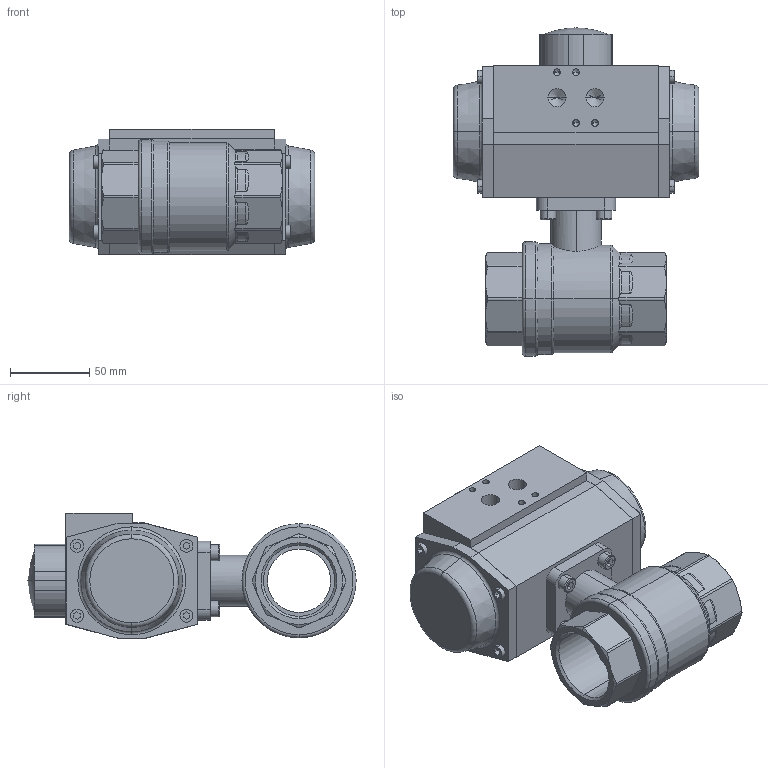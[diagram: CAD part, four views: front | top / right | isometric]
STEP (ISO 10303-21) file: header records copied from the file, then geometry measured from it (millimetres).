
FILE_DESCRIPTION (( 'STEP AP214' ), '1' );
FILE_NAME ('A25-DN40-G1 1_2+AP2.step', '2011-03-03T09:48:46', ( '' ), ( '' ), 'SwSTEP 2.0', 'SolidWorks 2011', '' );
FILE_SCHEMA (( 'AUTOMOTIVE_DESIGN' ));
Length unit declared in the file: millimetre
Products named in the file (4): DIN 912 M6 x 20 --- 20N_DIN 912 M6 x 20 --- 20N; AP2_Default<As Machined>; Ballvalve A25-DN40 G1 1_2; A25-DN40-G1 1_2+AP2
Assembly tree (6 placements, depth 2):
  A25-DN40-G1 1_2+AP2
    DIN 912 M6 x 20 --- 20N_DIN 912 M6 x 20 --- 20N  x4
    AP2_Default<As Machined>
    Ballvalve A25-DN40 G1 1_2
Bounding box: 155 x 206.99 x 79 mm (x, y, z)
Volume: 1086719.9 mm3; surface area: 125425.5 mm2
Topology: 9 solids, 9 shells, 468 faces, 1125 edges, 690 vertices
Faces by surface type: plane 220, cylinder 125, cone 72, torus 49, sphere 2
Entity records: 13101 total; most frequent: CARTESIAN_POINT 2926, DIRECTION 1890, ORIENTED_EDGE 1842, EDGE_CURVE 921, AXIS2_PLACEMENT_3D 681, VERTEX_POINT 591, LINE 528, VECTOR 528
